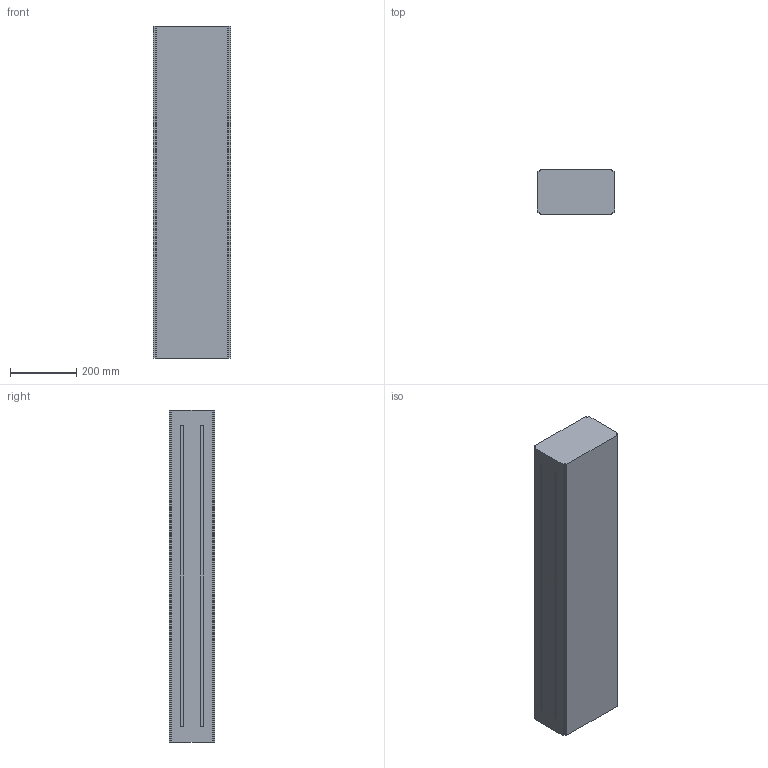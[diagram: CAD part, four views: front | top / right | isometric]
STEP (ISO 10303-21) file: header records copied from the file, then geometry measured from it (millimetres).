
FILE_DESCRIPTION (( 'STEP AP214' ), '1' );
FILE_NAME ('FS-MTC2-150-INOX Baansectie (niet gebruiken).230.STEP', '2017-02-08T12:43:27', ( '' ), ( '' ), 'SwSTEP 2.0', 'SolidWorks 2016', '' );
FILE_SCHEMA (( 'AUTOMOTIVE_DESIGN' ));
Length unit declared in the file: millimetre
Products named in the file (1): FS-MTC2-150-INOX Baansectie (niet gebruiken).230
Bounding box: 232.5 x 136.5 x 1000 mm (x, y, z)
Volume: 31436372.5 mm3; surface area: 819382.9 mm2
Topology: 1 solids, 1 shells, 42 faces, 108 edges, 72 vertices
Faces by surface type: plane 42
Entity records: 1286 total; most frequent: CARTESIAN_POINT 223, ORIENTED_EDGE 216, DIRECTION 194, VECTOR 108, EDGE_CURVE 108, LINE 108, VERTEX_POINT 72, EDGE_LOOP 46
